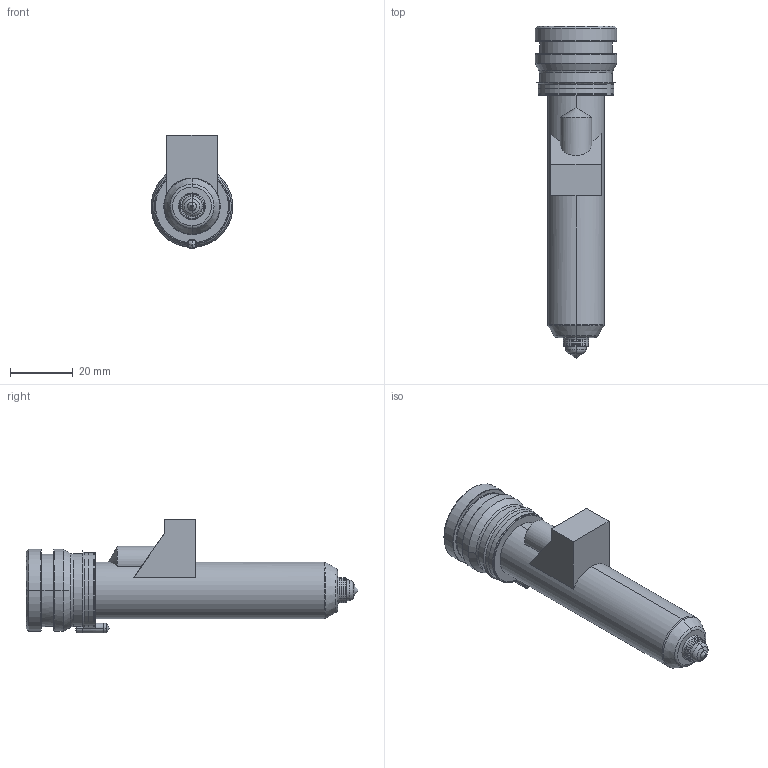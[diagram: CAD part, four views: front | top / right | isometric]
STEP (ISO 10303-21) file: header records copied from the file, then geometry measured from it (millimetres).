
FILE_DESCRIPTION((''),'2;1');
FILE_NAME('TH18087_5-M-1B15-PK-JG','2023-12-14T',('umhib'),('Thermoplay S.p.A.'),'PRO/ENGINEER BY PARAMETRIC TECHNOLOGY CORPORATION, 2017170','PRO/ENGINEER BY PARAMETRIC TECHNOLOGY CORPORATION, 2017170','');
FILE_SCHEMA(('CONFIG_CONTROL_DESIGN'));
Length unit declared in the file: millimetre
Products named in the file (1): TH18087_5-M-1B15-PK-JG
Bounding box: 26 x 105.5 x 36.1 mm (x, y, z)
Volume: 22478.3 mm3; surface area: 17363.4 mm2
Topology: 1 solids, 2 shells, 393 faces, 1003 edges, 615 vertices
Faces by surface type: cylinder 149, plane 87, cone 64, torus 58, bspline 22, sphere 11, extrusion 2
Entity records: 16877 total; most frequent: CARTESIAN_POINT 5194, DIRECTION 2010, ORIENTED_EDGE 1980, EDGE_CURVE 992, AXIS2_PLACEMENT_3D 810, VERTEX_POINT 615, CIRCLE 440, EDGE_LOOP 416
